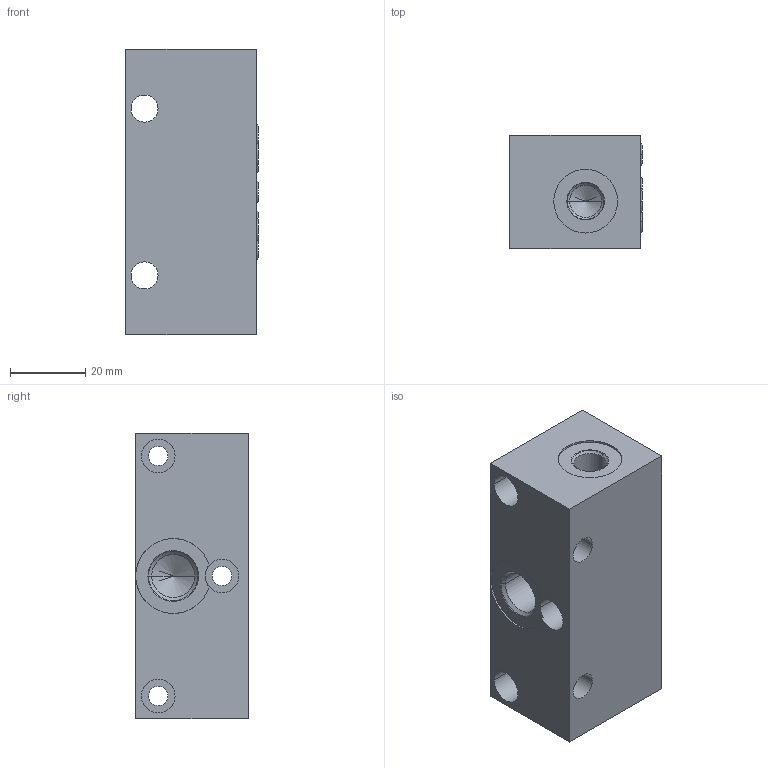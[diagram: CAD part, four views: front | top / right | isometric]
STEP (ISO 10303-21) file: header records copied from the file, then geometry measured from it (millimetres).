
FILE_DESCRIPTION((''),'2;1');
FILE_NAME('0641512_ASM','2023-07-20T11:40:26',('pietro.masciave'),(''),'CREO PARAMETRIC BY PTC INC, 2022281','CREO PARAMETRIC BY PTC INC, 2022281','');
FILE_SCHEMA(('CONFIG_CONTROL_DESIGN'));
Length unit declared in the file: millimetre
Products named in the file (3): 0641500; 0018887; 0641512_ASM
Assembly tree (10 placements, depth 2):
  0641512_ASM
    0641500
    0018887  x9
Bounding box: 35.28 x 30 x 76 mm (x, y, z)
Volume: 67461.6 mm3; surface area: 19855.5 mm2
Topology: 10 solids, 15 shells, 114 faces, 262 edges, 154 vertices
Faces by surface type: cylinder 41, torus 36, cone 20, plane 17
Entity records: 2539 total; most frequent: DIRECTION 495, CARTESIAN_POINT 407, ORIENTED_EDGE 356, AXIS2_PLACEMENT_3D 210, EDGE_CURVE 188, VERTEX_POINT 122, CIRCLE 113, EDGE_LOOP 106
